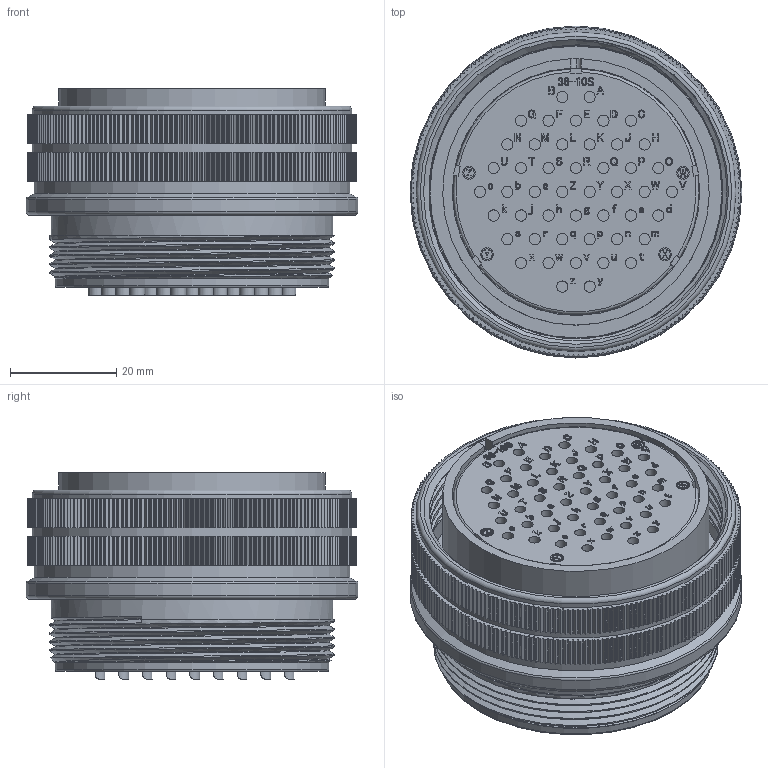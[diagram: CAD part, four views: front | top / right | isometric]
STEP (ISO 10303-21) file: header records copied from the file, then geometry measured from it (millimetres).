
FILE_DESCRIPTION (( 'STEP AP203' ), '1' );
FILE_NAME ('DMS3106A36-10S(D190).STEP', '2021-04-07T01:40:13', ( '' ), ( '' ), 'SwSTEP 2.0', 'SolidWorks 2018', '' );
FILE_SCHEMA (( 'CONFIG_CONTROL_DESIGN' ));
Length unit declared in the file: millimetre
Products named in the file (1): DMS3106A36-10S(D190)
Bounding box: 62.63 x 62.63 x 38.88 mm (x, y, z)
Volume: 81609.2 mm3; surface area: 38796.1 mm2
Topology: 1 solids, 1 shells, 5768 faces, 16247 edges, 10829 vertices
Faces by surface type: plane 2712, cylinder 2060, bspline 981, torus 12, cone 3
Full cylindrical faces by diameter (mm): 2 x4, 2.11 x48, 2.4 x4, 43 x1, 46.69 x1, 47.96 x1, 51.6 x1, 53.19 x1, 53.91 x1, 55.09 x1, 55.44 x1, 56.18 x1, 59.52 x1, 60.35 x2, 62.63 x1
Entity records: 218027 total; most frequent: CARTESIAN_POINT 73045, ORIENTED_EDGE 32308, DIRECTION 27194, EDGE_CURVE 16154, VERTEX_POINT 10815, LINE 9748, VECTOR 9748, AXIS2_PLACEMENT_3D 8723
